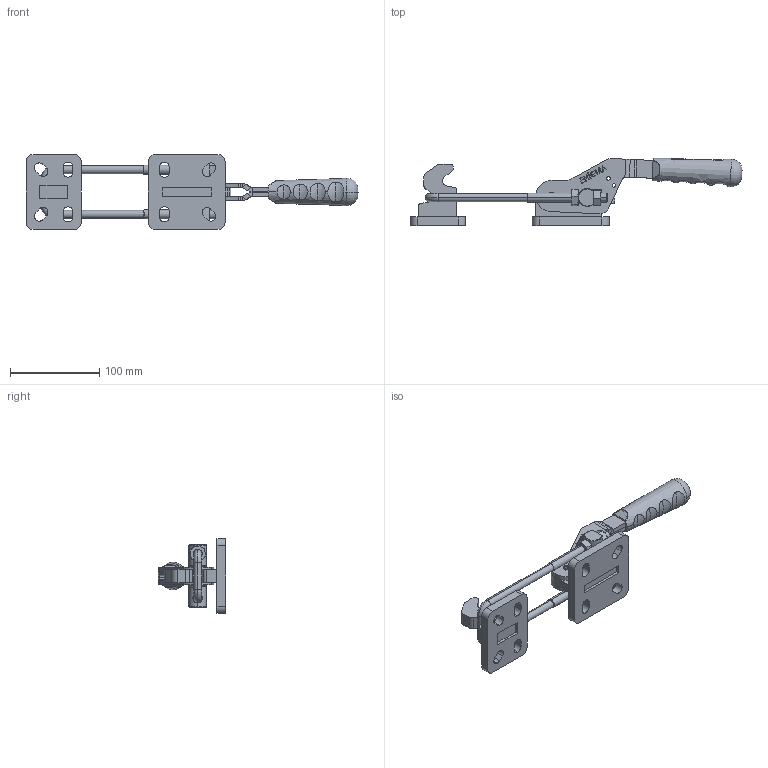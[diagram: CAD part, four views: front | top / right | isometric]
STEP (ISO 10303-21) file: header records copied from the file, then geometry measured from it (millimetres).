
FILE_DESCRIPTION (( 'STEP AP214' ), '1' );
FILE_NAME ('13510_Y.STEP', '2022-12-02T07:00:14', ( '' ), ( '' ), 'SwSTEP 2.0', 'SolidWorks 2023', '' );
FILE_SCHEMA (( 'AUTOMOTIVE_DESIGN' ));
Length unit declared in the file: millimetre
Products named in the file (13): Burc_12x8x9_Varsayılan; Pim_8x23_Varsayılan; 1391_KarsılıkKancaTablası; 1391_Govde; M10 Somun_Varsayılan; 1391_KarsılıkKanca; M10_U_Kanca_Varsayılan; 1391_hareket kolu_sag_Varsayılan; Aynalama1391_hareket kolu_sag_Varsayılan; C100_T_10x20(YENİ_TUTAMAK_10x20)_Varsayılan; 13510_Y; 1391_Alt Plaka; 1381_Kanca mili_Varsayılan
Assembly tree (13 placements, depth 2):
  13510_Y
    1391_Alt Plaka
    1391_Govde
    1391_hareket kolu_sag_Varsayılan
    1381_Kanca mili_Varsayılan
    M10_U_Kanca_Varsayılan
    Aynalama1391_hareket kolu_sag_Varsayılan
    M10 Somun_Varsayılan  x2
    1391_KarsılıkKancaTablası
    Pim_8x23_Varsayılan
    Burc_12x8x9_Varsayılan
    1391_KarsılıkKanca
    C100_T_10x20(YENİ_TUTAMAK_10x20)_Varsayılan
Bounding box: 371.9 x 75.93 x 84 mm (x, y, z)
Volume: 308554 mm3; surface area: 116345.4 mm2
Topology: 13 solids, 13 shells, 805 faces, 2119 edges, 1381 vertices
Faces by surface type: plane 435, cylinder 166, bspline 127, cone 57, torus 20
Entity records: 30751 total; most frequent: CARTESIAN_POINT 11709, ORIENTED_EDGE 4094, DIRECTION 3466, EDGE_CURVE 2047, VERTEX_POINT 1335, LINE 1278, VECTOR 1278, AXIS2_PLACEMENT_3D 1094
